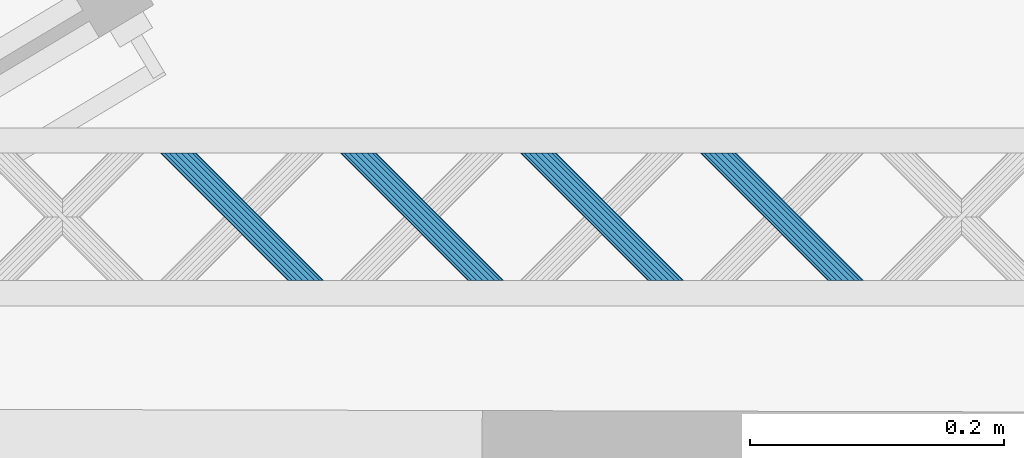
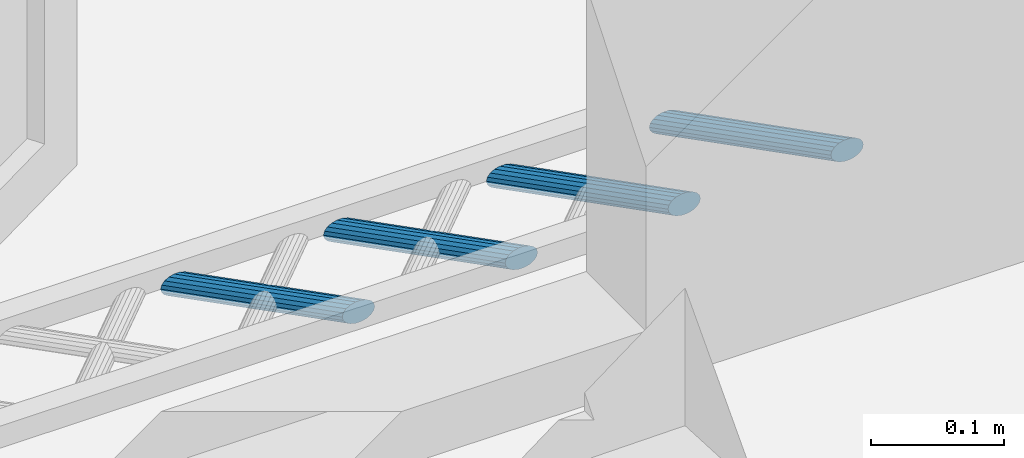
# One storey, part 69 of 133: 4 members, 1 element without a shape of its own.
"""IFC2X3 building model written with IfcOpenShell, lengths in centimetres."""

from ifc_helpers import new_model, entity, si_unit, converted_unit, direction, frame, origin, origin_with_axes, place, context, subcontext, project, spatial, faceted_brep, material, type_object, element, aggregate, save


model = new_model("IFC2X3")

# Units and contexts
model_context = context("Model", 3, precision=0.0001, world=origin(), true_north=direction((0.225632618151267, 0.974212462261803, 0.0)))
body_context = subcontext(model_context, "Body", "Model", "MODEL_VIEW")
ifc_project = project(units=[si_unit("LENGTHUNIT", "METRE", prefix="CENTI"), si_unit("AREAUNIT", "SQUARE_METRE", prefix="CENTI"), si_unit("VOLUMEUNIT", "CUBIC_METRE", prefix="CENTI"), converted_unit("PLANEANGLEUNIT", "DEGREE", entity("IfcRatioMeasure", 0.0174532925), si_unit("PLANEANGLEUNIT", "RADIAN"), dimensions=[0, 0, 0, 0, 0, 0, 0])], contexts=[model_context])

# Site, building, storey
site_placement = place(None, origin_with_axes())
site = spatial("IfcSite", under=ifc_project, at=site_placement, Name="Default Site", CompositionType="ELEMENT")
building_placement = place(site_placement, origin_with_axes())
building = spatial("IfcBuilding", under=site, at=building_placement, Name="Default Building", CompositionType="ELEMENT")
storey_placement = place(building_placement, frame((0.0, 0.0, -291.400371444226), z_axis=(0.0, 0.0, 1.0), x_axis=(1.0, 0.0, 0.0)))
storey = spatial("IfcBuildingStorey", under=building, at=storey_placement, Name="Rez-de-Jardin", CompositionType="ELEMENT", Elevation=-291.400371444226)

# Assembly, members
building_element_proxy_type = type_object("IfcBuildingElementProxyType", Name="Type Object", PredefinedType="NOTDEFINED")
assembly_placement = place(storey_placement, frame((-322.682568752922, 627.125798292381, 0.0), z_axis=(0.0, 1.0, -2.38697950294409e-15), x_axis=(1.0, 0.0, 0.0)))
assembly = element("IfcElementAssembly", 1, at=assembly_placement, inside=storey, type_object=building_element_proxy_type, Name="Panneau 92029", ObjectType="Precast panel", PredefinedType="USERDEFINED")
ifc_material = material(Name="Aluminium satiné")
member_1_placement = place(assembly_placement, frame((205.452823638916, 0.342020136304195, 1.99999995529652), z_axis=(1.16937209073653e-15, 1.43220862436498e-15, -1.0), x_axis=(-0.632448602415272, -0.774602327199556, -1.84895987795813e-15)))
member_1 = element("IfcMember", 2, at=member_1_placement, material=ifc_material, Name="4294966810", context=body_context, shape_type="Brep", body=[
    faceted_brep([(-4.44089209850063e-14, 6.66133814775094e-14, 1.50573997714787e-13), (-0.388286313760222, 6.66133814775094e-14, 1.5129192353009e-13), (-0.79916457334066, -0.150256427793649, 1.52051620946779e-13), (-1.18306811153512, -0.432635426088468, 1.52761443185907e-13), (-1.49369035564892, -0.813075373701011, 1.53335771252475e-13), (-1.69357569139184, -1.24570186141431, 1.53705351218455e-13), (-1.75861293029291, -1.67833114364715, 1.53825602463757e-13), (-1.68094886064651, -2.05877109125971, 1.53682004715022e-13), (-1.46995595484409, -2.34114113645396, 1.53291887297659e-13), (-1.15108967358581, -2.49139140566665, 1.52702316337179e-13), (-0.762803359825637, -2.49139140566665, 1.51984390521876e-13), (-0.351925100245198, -2.34113497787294, 1.51224693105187e-13), (0.0319784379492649, -2.05875597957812, 1.50514870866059e-13), (0.342600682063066, -1.67831603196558, 1.49940542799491e-13), (0.542486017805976, -1.24568954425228, 1.4957096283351e-13), (0.607523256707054, -0.813060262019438, 1.49450711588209e-13), (0.529859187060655, -0.432620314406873, 1.49594309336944e-13), (0.318866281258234, -0.150250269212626, 1.49984426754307e-13), (6.64336135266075, 7.59578408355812, -9.99999977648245), (6.85434671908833, 7.31340480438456, -9.99999977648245), (6.93201078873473, 6.93296485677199, -9.99999977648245), (6.86697354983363, 6.50033557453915, -9.99999977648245), (6.66708821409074, 6.06770908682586, -9.99999977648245), (6.35645843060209, 5.687259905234, -9.99999977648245), (5.97255489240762, 5.40488090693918, -9.99999977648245), (5.56168417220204, 5.25463371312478, -9.99999977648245), (5.17339031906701, 5.25462447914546, -9.99999977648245), (4.85452403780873, 5.40487474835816, -9.99999977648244), (4.64353113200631, 5.6872447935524, -9.99999977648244), (4.56587460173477, 6.06769397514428, -9.99999977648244), (4.63090430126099, 6.50031402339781, -9.99999977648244), (4.8307896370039, 6.93294051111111, -9.99999977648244), (5.14141942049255, 7.31338969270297, -9.99999977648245), (5.525322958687, 7.59576869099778, -9.99999977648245), (5.93620121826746, 7.7460251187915, -9.99999977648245), (6.32448753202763, 7.7460251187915, -9.99999977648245), (0.318866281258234, -0.150250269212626, 1.50227053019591e-13), (0.529857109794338, -0.432621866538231, -2.51604859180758e-06), (6.85434359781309, 7.31340247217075, -10.0000035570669), (6.64335553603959, 7.59577973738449, -10.0000068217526), (0.529859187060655, -0.432620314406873, 1.49880108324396e-13), (0.607521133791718, -0.813060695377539, -1.67831488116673e-06), (6.93200742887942, 6.93296417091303, -10.0000024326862), (6.85434548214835, 7.31340455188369, -10.0000007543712), (0.607523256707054, -0.813060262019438, 1.49533163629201e-13), (0.542487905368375, -1.24568982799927, 9.73995275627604e-07), (6.86697439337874, 6.50033544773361, -9.9999993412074), (6.93200974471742, 6.93296501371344, -10.0000003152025), (0.542486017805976, -1.24568954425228, 1.49880108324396e-13), (0.342600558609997, -1.67831597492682, -3.389521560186e-08), (6.66708753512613, 6.06770940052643, -9.99999996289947), (6.8669729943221, 6.50033583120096, -9.9999999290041), (0.342600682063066, -1.67831603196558, 1.50227053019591e-13), (0.03197843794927, -2.05875597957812, 1.50920942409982e-13), (6.35645843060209, 5.687259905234, -9.99999977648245), (0.0319784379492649, -2.05875597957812, 1.50920942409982e-13), (-0.351925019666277, -2.34113508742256, -3.38952172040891e-08), (5.97255367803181, 5.404882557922, -9.9999992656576), (6.35645713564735, 5.68726166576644, -9.99999923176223), (-0.351925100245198, -2.34113497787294, 1.51267887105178e-13), (-0.762804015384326, -2.49138961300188, 9.73995282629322e-07), (5.56168387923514, 5.25463451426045, -9.9999993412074), (5.97255359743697, 5.40488444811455, -9.99999785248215), (-0.762803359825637, -2.49139140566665, 1.52308721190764e-13), (-1.15108967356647, -2.49139357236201, -1.67831487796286e-06), (5.1733903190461, 5.25462682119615, -9.99999796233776), (5.56168417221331, 5.25463245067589, -10.0000007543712), (-1.15108967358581, -2.49139140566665, 1.53002610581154e-13), (-1.46995706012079, -2.34114348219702, -2.51604858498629e-06), (4.85452491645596, 5.40487661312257, -9.99999777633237), (5.17339230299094, 5.25462868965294, -9.99999526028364), (-1.46995595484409, -2.34114113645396, 1.53696499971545e-13), (-1.6809467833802, -2.05876953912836, 2.51604889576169e-06), (4.64353693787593, 5.6872491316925, -9.99999274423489), (4.85452776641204, 5.4048775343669, -9.99999526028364), (-1.68094886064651, -2.05877109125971, 1.53696499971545e-13), (-1.75861080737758, -1.67833071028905, 1.67831518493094e-06), (4.56587548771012, 6.06769415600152, -9.99999907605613), (4.6435355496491, 5.68724569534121, -9.99999628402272), (-1.75861293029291, -1.67833114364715, 1.54390389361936e-13), (-1.69357757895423, -1.24570157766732, -9.73994971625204e-07), (4.63090614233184, 6.50031374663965, -9.99999882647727), (4.56587355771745, 6.06769413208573, -10.0000003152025), (-1.69357569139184, -1.24570186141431, 1.5404344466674e-13), (-1.49369023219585, -0.81307543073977, 3.38955196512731e-08), (4.83079174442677, 6.932939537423, -9.99999919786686), (4.63090628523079, 6.50031310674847, -9.99999923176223), (-1.49369035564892, -0.813075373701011, 1.53696499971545e-13), (-1.18306811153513, -0.432635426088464, 1.53002610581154e-13), (4.83078963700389, 6.93294051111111, -9.99999977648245), (-1.18306811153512, -0.432635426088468, 1.53002610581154e-13), (-0.799164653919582, -0.150256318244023, 3.38955211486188e-08), (5.52532324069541, 7.59576830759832, -9.99999989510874), (5.14141978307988, 7.31338919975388, -9.9999999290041), (-0.79916457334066, -0.150256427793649, 1.52655665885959e-13), (-0.388285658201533, -1.79266470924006e-06, -9.73994978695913e-07), (5.93620223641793, 7.74602233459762, -10.0000012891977), (5.52532332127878, 7.59576769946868, -10.0000003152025), (-0.388286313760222, 6.66133814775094e-14, 1.51614831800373e-13), (-1.93891806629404e-11, 2.16669542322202e-06, 1.67831518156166e-06), (6.32448753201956, 7.74602602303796, -9.99999907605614), (5.93620121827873, 7.74602385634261, -10.0000007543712), (0.318867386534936, -0.150247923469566, 2.51604888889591e-06), (6.64335936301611, 7.59577986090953, -10.0000043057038), (6.32448697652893, 7.74602393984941, -10.0000010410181)], [[[0, 1, 2, 3, 4, 5, 6, 7, 8, 9, 10, 11, 12, 13, 14, 15, 16, 17]], [[18, 19, 20, 21, 22, 23, 24, 25, 26, 27, 28, 29, 30, 31, 32, 33, 34, 35]], [[36, 37, 38, 39]], [[40, 41, 42, 43]], [[44, 45, 46, 47]], [[48, 49, 50, 51]], [[52, 53, 54, 22]], [[55, 56, 57, 58]], [[59, 60, 61, 62]], [[63, 64, 65, 66]], [[67, 68, 69, 70]], [[71, 72, 73, 74]], [[75, 76, 77, 78]], [[79, 80, 81, 82]], [[83, 84, 85, 86]], [[87, 88, 32, 89]], [[90, 91, 92, 93]], [[94, 95, 96, 97]], [[98, 99, 100, 101]], [[0, 102, 103, 104]]]),
])
member_2_placement = place(assembly_placement, frame((191.310679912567, 0.342020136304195, 1.99999995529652), z_axis=(1.16938344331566e-15, 1.43215300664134e-15, -1.0), x_axis=(-0.632467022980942, -0.774587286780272, -1.84892397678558e-15)))
member_2 = element("IfcMember", 3, at=member_2_placement, material=ifc_material, Name="4294966809", context=body_context, shape_type="Brep", body=[
    faceted_brep([(-4.44089209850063e-14, 4.44089209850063e-14, 1.35655375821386e-13), (-0.388293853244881, 4.44089209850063e-14, 1.36373301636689e-13), (-0.799168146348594, -0.150237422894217, 1.37132976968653e-13), (-1.18307839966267, -0.432607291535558, 1.3784279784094e-13), (-1.49371723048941, -0.813049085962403, 1.38417145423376e-13), (-1.69361285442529, -1.24567082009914, 1.38786737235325e-13), (-1.75866038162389, -1.67829855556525, 1.38907005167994e-13), (-1.68100535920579, -2.05874034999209, 1.38763426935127e-13), (-1.47002670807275, -2.34112464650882, 1.38373343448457e-13), (-1.15115646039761, -2.49137326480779, 1.37783776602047e-13), (-0.762870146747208, -2.49138249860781, 1.37065864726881e-13), (-0.351988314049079, -2.34113584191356, 1.3630617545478e-13), (0.0319219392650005, -2.05876597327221, 1.35596354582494e-13), (0.342560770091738, -1.67832417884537, 1.35022007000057e-13), (0.542456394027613, -1.24570244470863, 1.34652415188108e-13), (0.6074963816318, -0.813083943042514, 1.34532161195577e-13), (0.529848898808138, -0.432632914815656, 1.34675725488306e-13), (0.318862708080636, -0.150257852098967, 1.35065822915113e-13), (6.64353444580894, 7.59561686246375, -9.99999977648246), (6.85451309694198, 7.31323256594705, -9.99999977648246), (6.93216811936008, 6.9327907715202, -9.99999977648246), (6.86712059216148, 6.50016303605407, -9.99999977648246), (6.66722496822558, 6.06754130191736, -9.99999977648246), (6.35659367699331, 5.68710874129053, -9.99999977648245), (5.97268342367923, 5.40473887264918, -9.99999977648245), (5.56180159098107, 5.25449221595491, -9.99999977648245), (5.17351527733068, 5.25450144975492, -9.99999977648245), (4.85464502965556, 5.40475006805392, -9.99999977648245), (4.64366637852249, 5.68713436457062, -9.99999977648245), (4.56601135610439, 6.06757615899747, -9.99999977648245), (4.63105888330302, 6.5002038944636, -9.99999977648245), (4.83095450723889, 6.93282562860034, -9.99999977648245), (5.14158579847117, 7.31325818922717, -9.99999977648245), (5.52549605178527, 7.59562805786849, -9.99999977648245), (5.9363778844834, 7.74587471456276, -9.99999977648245), (6.3246641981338, 7.74586548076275, -9.99999977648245), (0.318862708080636, -0.150257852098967, 1.35308431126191e-13), (0.529846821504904, -0.432634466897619, -2.5160486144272e-06), (6.85451474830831, 7.31323379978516, -9.9999977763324), (6.64353340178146, 7.59561608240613, -10.0000010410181), (0.529848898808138, -0.432632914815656, 1.34961486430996e-13), (0.607499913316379, -0.813083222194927, 2.79203354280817e-06), (6.93217041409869, 6.93279123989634, -9.99999796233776), (6.85451751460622, 7.3132334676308, -9.99999628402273), (0.6074963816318, -0.813083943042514, 1.346145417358e-13), (0.542453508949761, -1.24570201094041, -1.48872511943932e-06), (6.86712143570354, 6.50016290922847, -9.99999934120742), (6.93216707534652, 6.93279092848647, -10.0000003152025), (0.542456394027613, -1.24570244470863, 1.346145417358e-13), (0.342560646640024, -1.67832412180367, -3.3895231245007e-08), (6.66722682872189, 6.06754044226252, -9.9999992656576), (6.86712257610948, 6.50016211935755, -9.99999923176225), (0.342560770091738, -1.67832417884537, 1.34961486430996e-13), (0.0319219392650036, -2.05876597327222, 1.35655375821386e-13), (6.35659367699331, 5.68710874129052, -9.99999977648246), (6.66722496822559, 6.06754130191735, -9.99999977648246), (0.0319219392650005, -2.05876597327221, 1.35655375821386e-13), (-0.351988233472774, -2.34113595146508, -3.38952270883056e-08), (5.97268386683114, 5.40473827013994, -9.99999996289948), (6.35659403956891, 5.68710824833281, -9.99999992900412), (-0.351988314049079, -2.34113584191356, 1.36349265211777e-13), (-0.762870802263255, -2.49138070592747, 9.73995251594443e-07), (5.56180129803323, 5.25449301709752, -9.99999934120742), (5.97268378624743, 5.40473788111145, -10.0000003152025), (-0.762870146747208, -2.49138249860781, 1.37043154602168e-13), (-1.15115646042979, -2.49137543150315, -1.67831489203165e-06), (5.17351527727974, 5.25449802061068, -10.0000024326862), (5.56180159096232, 5.25449095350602, -10.0000007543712), (-1.15115646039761, -2.49137326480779, 1.38083988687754e-13), (-1.47002527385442, -2.34112160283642, 3.26468587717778e-06), (4.85464590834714, 5.40475193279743, -9.99999777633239), (5.17351472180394, 5.25450027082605, -10.0000010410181), (-1.47002670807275, -2.34112464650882, 1.38430933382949e-13), (-1.6810080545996, -2.05874236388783, -3.26468559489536e-06), (4.64366263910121, 5.68713157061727, -10.0000043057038), (4.85464398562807, 5.4047492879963, -10.0000010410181), (-1.68100535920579, -2.05874034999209, 1.38777878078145e-13), (-1.75865825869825, -1.67829812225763, 1.67831516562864e-06), (4.56601224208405, 6.06757633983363, -9.99999907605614), (4.64366514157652, 5.68713411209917, -10.0000007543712), (-1.75866038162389, -1.67829855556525, 1.3912482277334e-13), (-1.69361474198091, -1.24567053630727, -9.73994974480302e-07), (4.63105595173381, 6.50020433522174, -10.0000012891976), (4.56601031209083, 6.06757631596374, -10.0000003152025), (-1.69361285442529, -1.24567082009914, 1.3912482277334e-13), (-1.4937171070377, -0.813049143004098, 3.38955045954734e-08), (4.83095407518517, 6.93282582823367, -9.99999989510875), (4.63105832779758, 6.50020415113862, -9.99999992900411), (-1.49371723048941, -0.813049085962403, 1.38430933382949e-13), (-1.18307839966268, -0.432607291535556, 1.37737043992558e-13), (5.14158579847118, 7.31325818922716, -9.99999977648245), (4.8309545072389, 6.93282562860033, -9.99999977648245), (-1.18307839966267, -0.432607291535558, 1.37737043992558e-13), (-0.799168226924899, -0.150237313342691, 3.38955008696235e-08), (5.5254946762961, 7.59562992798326, -9.99999919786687), (5.14158450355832, 7.31325994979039, -9.99999923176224), (-0.799168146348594, -0.150237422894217, 1.37390099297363e-13), (-0.388294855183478, 2.7400635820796e-06, 1.48872539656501e-06), (5.93637724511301, 7.74587646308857, -9.99999882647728), (5.52549475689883, 7.59563159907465, -9.99999785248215), (-0.388293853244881, 4.44089209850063e-14, 1.36696209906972e-13), (-5.35808416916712e-11, -3.60449953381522e-06, -2.79203327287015e-06), (6.32466419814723, 7.74586638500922, -9.99999907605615), (5.93637788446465, 7.74587345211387, -10.0000007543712), (0.318863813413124, -0.150255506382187, 2.51604887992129e-06), (6.64353499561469, 7.59561802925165, -9.99999852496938), (6.32466618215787, 7.74586969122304, -9.99999526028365)], [[[0, 1, 2, 3, 4, 5, 6, 7, 8, 9, 10, 11, 12, 13, 14, 15, 16, 17]], [[18, 19, 20, 21, 22, 23, 24, 25, 26, 27, 28, 29, 30, 31, 32, 33, 34, 35]], [[36, 37, 38, 39]], [[40, 41, 42, 43]], [[44, 45, 46, 47]], [[48, 49, 50, 51]], [[52, 53, 54, 55]], [[56, 57, 58, 59]], [[60, 61, 62, 63]], [[64, 65, 66, 67]], [[68, 69, 70, 71]], [[72, 73, 74, 75]], [[76, 77, 78, 79]], [[80, 81, 82, 83]], [[84, 85, 86, 87]], [[88, 89, 90, 91]], [[92, 93, 94, 95]], [[96, 97, 98, 99]], [[100, 101, 102, 103]], [[0, 104, 105, 106]]]),
])
member_3_placement = place(assembly_placement, frame((177.168548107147, 0.342020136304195, 1.99999995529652), z_axis=(1.16937209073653e-15, 1.43220862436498e-15, -1.0), x_axis=(-0.632448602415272, -0.774602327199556, -1.84895987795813e-15)))
member_3 = element("IfcMember", 4, at=member_3_placement, material=ifc_material, Name="4294966808", context=body_context, shape_type="Brep", body=[
    faceted_brep([(-2.22044604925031e-14, 4.44089209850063e-14, 1.17614251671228e-13), (-0.388286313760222, 4.44089209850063e-14, 1.1833217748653e-13), (-0.79916457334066, -0.150256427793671, 1.1909187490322e-13), (-1.18306811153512, -0.43263542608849, 1.19801697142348e-13), (-1.49369789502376, -0.813084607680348, 1.20376039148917e-13), (-1.69358323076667, -1.24571109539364, 1.20745619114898e-13), (-1.75861293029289, -1.67833114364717, 1.20865856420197e-13), (-1.68095640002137, -2.05878032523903, 1.20722272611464e-13), (-1.46996349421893, -2.3411503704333, 1.20332155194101e-13), (-1.15109721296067, -2.49140063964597, 1.19742584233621e-13), (-0.762803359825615, -2.49139140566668, 1.19024644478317e-13), (-0.351932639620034, -2.34114421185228, 1.18264961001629e-13), (0.0319708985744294, -2.05876521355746, 1.17555138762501e-13), (0.342600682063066, -1.6783160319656, 1.16980796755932e-13), (0.542486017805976, -1.2456895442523, 1.16611216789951e-13), (0.607523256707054, -0.81306026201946, 1.1649096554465e-13), (0.529859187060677, -0.432620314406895, 1.16634563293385e-13), (0.318866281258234, -0.150250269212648, 1.17024680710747e-13), (6.64335381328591, 7.59577484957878, -9.99999977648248), (6.85434671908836, 7.31340480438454, -9.99999977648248), (6.93200324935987, 6.93295562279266, -9.99999977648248), (6.86697354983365, 6.50033557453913, -9.99999977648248), (6.66708821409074, 6.06770908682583, -9.99999977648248), (6.35645843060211, 5.68725990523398, -9.99999977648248), (5.97255489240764, 5.40488090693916, -9.99999977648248), (5.56167663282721, 5.25462447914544, -9.99999977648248), (5.17339031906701, 5.25462447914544, -9.99999977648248), (4.85452403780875, 5.40487474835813, -9.99999977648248), (4.64353113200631, 5.68724479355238, -9.99999977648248), (4.56586706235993, 6.06768474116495, -9.99999977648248), (4.63090430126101, 6.50031402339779, -9.99999977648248), (4.83078963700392, 6.93294051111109, -9.99999977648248), (5.14141942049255, 7.31338969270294, -9.99999977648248), (5.52532295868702, 7.59576869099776, -9.99999977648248), (5.9361936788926, 7.74601588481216, -9.99999977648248), (6.32448753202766, 7.74602511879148, -9.99999977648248), (0.318866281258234, -0.150250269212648, 1.17267306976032e-13), (0.529857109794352, -0.432621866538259, -2.51604863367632e-06), (6.8543435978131, 7.31340247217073, -10.0000035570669), (6.64335276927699, 7.59577406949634, -10.0000010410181), (0.529859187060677, -0.432620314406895, 1.16920362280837e-13), (0.607521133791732, -0.813060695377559, -1.67831490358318e-06), (6.93200554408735, 6.93295609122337, -9.99999796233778), (6.85434548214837, 7.31340455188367, -10.0000007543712), (0.607523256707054, -0.81306026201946, 1.16573417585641e-13), (0.542487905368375, -1.24568982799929, 9.73995242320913e-07), (6.86697439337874, 6.50033544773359, -9.99999934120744), (6.93200697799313, 6.93295506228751, -9.99999785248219), (0.542486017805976, -1.2456895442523, 1.16573417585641e-13), (0.342600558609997, -1.67831597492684, -3.3895248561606e-08), (6.66708753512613, 6.06770940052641, -9.99999996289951), (6.86697299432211, 6.50033583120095, -9.99999992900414), (0.342600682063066, -1.6783160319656, 1.17267306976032e-13), (0.0319708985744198, -2.05876521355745, 1.17614251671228e-13), (6.3564584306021, 5.68725990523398, -9.99999977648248), (0.0319708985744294, -2.05876521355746, 1.17614251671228e-13), (-0.351932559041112, -2.3411443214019, -3.38952501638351e-08), (5.97255533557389, 5.40488030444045, -9.99999996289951), (6.35645879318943, 5.68725941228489, -9.99999992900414), (-0.351932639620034, -2.34114421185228, 1.18308141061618e-13), (-0.762802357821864, -2.49139414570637, -1.48872513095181e-06), (5.5616763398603, 5.25462528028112, -9.99999934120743), (5.97255525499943, 5.40487991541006, -10.0000003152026), (-0.762803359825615, -2.49139140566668, 1.19002030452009e-13), (-1.15109721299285, -2.4913970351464, 2.79203351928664e-06), (5.1733903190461, 5.25462682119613, -9.99999796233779), (5.56167663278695, 5.25462898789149, -9.99999628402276), (-1.15109721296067, -2.49140063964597, 1.20042864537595e-13), (-1.46996459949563, -2.34115271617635, -2.51604861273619e-06), (4.85452237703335, 5.40487122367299, -10.0000035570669), (5.17338976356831, 5.25462330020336, -10.0000010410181), (-1.46996349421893, -2.3411503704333, 1.2038980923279e-13), (-1.68095432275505, -2.05877877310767, 2.51604886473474e-06), (4.64353216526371, 5.6872455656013, -9.99999852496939), (4.85452299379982, 5.40487396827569, -10.0000010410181), (-1.68095640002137, -2.05878032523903, 1.20736753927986e-13), (-1.75861646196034, -1.67833186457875, -2.7920332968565e-06), (4.56586794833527, 6.06768492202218, -9.99999907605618), (4.64352989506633, 5.68724454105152, -10.0000007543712), (-1.75861293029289, -1.67833114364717, 1.21083698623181e-13), (-1.69358034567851, -1.24571152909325, 1.48872537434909e-06), (4.63090614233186, 6.50031374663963, -9.99999882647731), (4.56587079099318, 6.0676841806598, -9.99999785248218), (-1.69358323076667, -1.24571109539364, 1.21083698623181e-13), (-1.49369777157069, -0.813084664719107, 3.38954863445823e-08), (4.83078920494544, 6.93294071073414, -9.99999989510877), (4.63090374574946, 6.50031428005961, -9.99999992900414), (-1.49369789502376, -0.813084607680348, 1.2038980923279e-13), (-1.18306811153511, -0.432635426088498, 1.20042864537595e-13), (5.14141942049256, 7.31338969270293, -9.99999977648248), (-1.18306811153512, -0.43263542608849, 1.20042864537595e-13), (-0.799164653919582, -0.150256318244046, 3.38954878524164e-08), (5.52532324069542, 7.5957683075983, -9.99999989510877), (5.14141978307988, 7.31338919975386, -9.99999992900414), (-0.79916457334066, -0.150256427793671, 1.19348975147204e-13), (-0.388285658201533, -1.7926647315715e-06, -9.7399501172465e-07), (5.93619303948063, 7.74601763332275, -9.99999882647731), (5.5253233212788, 7.59576769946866, -10.0000003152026), (-0.388286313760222, 4.44089209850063e-14, 1.18655085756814e-13), (-1.9366976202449e-11, 2.16669540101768e-06, 1.67831514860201e-06), (6.32448753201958, 7.74602602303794, -9.99999907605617), (5.93619367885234, 7.74602039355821, -9.99999628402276), (0.318867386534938, -0.150247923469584, 2.51604886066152e-06), (6.64335436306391, 7.59577601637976, -9.9999985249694), (6.32448697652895, 7.74602393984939, -10.0000010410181)], [[[0, 1, 2, 3, 4, 5, 6, 7, 8, 9, 10, 11, 12, 13, 14, 15, 16, 17]], [[18, 19, 20, 21, 22, 23, 24, 25, 26, 27, 28, 29, 30, 31, 32, 33, 34, 35]], [[36, 37, 38, 39]], [[40, 41, 42, 43]], [[44, 45, 46, 47]], [[48, 49, 50, 51]], [[52, 53, 54, 22]], [[55, 56, 57, 58]], [[59, 60, 61, 62]], [[63, 64, 65, 66]], [[67, 68, 69, 70]], [[71, 72, 73, 74]], [[75, 76, 77, 78]], [[79, 80, 81, 82]], [[83, 84, 85, 86]], [[87, 88, 89, 31]], [[90, 91, 92, 93]], [[94, 95, 96, 97]], [[98, 99, 100, 101]], [[0, 102, 103, 104]]]),
])
member_4_placement = place(assembly_placement, frame((163.026416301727, 0.342020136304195, 1.99999995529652), z_axis=(1.16937209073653e-15, 1.43220862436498e-15, -1.0), x_axis=(-0.632448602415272, -0.774602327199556, -1.84895987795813e-15)))
member_4 = element("IfcMember", 5, at=member_4_placement, material=ifc_material, Name="4294966807", context=body_context, shape_type="Brep", body=[
    faceted_brep([(-4.44089209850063e-14, 6.66133814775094e-14, 1.89778748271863e-13), (-0.388286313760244, 6.66133814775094e-14, 1.90496674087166e-13), (-0.799164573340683, -0.150256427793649, 1.91256371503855e-13), (-1.18306811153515, -0.432635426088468, 1.91966193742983e-13), (-1.49369035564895, -0.813075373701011, 1.92540521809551e-13), (-1.69358323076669, -1.24571109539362, 1.92910115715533e-13), (-1.75861293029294, -1.67833114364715, 1.93030353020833e-13), (-1.68095640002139, -2.05878032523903, 1.92886769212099e-13), (-1.46996349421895, -2.34115037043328, 1.92496651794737e-13), (-1.15109721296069, -2.49140063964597, 1.91907080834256e-13), (-0.762803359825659, -2.49139140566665, 1.91189141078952e-13), (-0.351932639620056, -2.34114421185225, 1.90429457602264e-13), (0.0319784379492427, -2.05875597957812, 1.89719621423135e-13), (0.342600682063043, -1.67831603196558, 1.89145293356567e-13), (0.542486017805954, -1.24568954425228, 1.88775713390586e-13), (0.607523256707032, -0.813060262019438, 1.88655462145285e-13), (0.529859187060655, -0.432620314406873, 1.8879905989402e-13), (0.31887382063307, -0.150241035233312, 1.89189163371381e-13), (6.64336135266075, 7.59578408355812, -9.99999977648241), (6.85434671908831, 7.31340480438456, -9.99999977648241), (6.93201078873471, 6.93296485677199, -9.99999977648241), (6.86697354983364, 6.50033557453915, -9.99999977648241), (6.66708821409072, 6.06770908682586, -9.99999977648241), (6.35645843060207, 5.687259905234, -9.99999977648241), (5.97255489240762, 5.40488090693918, -9.99999977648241), (5.56168417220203, 5.25463371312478, -9.99999977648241), (5.17339031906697, 5.25462447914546, -9.99999977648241), (4.85452403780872, 5.40487474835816, -9.9999997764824), (4.6435311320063, 5.6872447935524, -9.9999997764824), (4.56587460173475, 6.06769397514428, -9.9999997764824), (4.63090430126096, 6.50031402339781, -9.9999997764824), (4.83078963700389, 6.93294051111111, -9.9999997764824), (5.14141942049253, 7.31338969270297, -9.99999977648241), (5.52532295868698, 7.59576869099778, -9.99999977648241), (5.93620121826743, 7.7460251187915, -9.99999977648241), (6.32448753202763, 7.7460251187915, -9.99999977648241), (0.31887382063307, -0.150241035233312, 1.89431803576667e-13), (0.529861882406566, -0.432618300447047, 3.26468591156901e-06), (6.8543483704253, 7.31340603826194, -9.99999777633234), (6.64336030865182, 7.59578330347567, -10.0000010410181), (0.529859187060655, -0.432620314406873, 1.89084858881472e-13), (0.607521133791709, -0.813060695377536, -1.67831483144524e-06), (6.93200742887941, 6.93296417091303, -10.0000024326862), (6.85434548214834, 7.3134045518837, -10.0000007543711), (0.607523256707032, -0.813060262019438, 1.88737914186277e-13), (0.542487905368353, -1.24568982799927, 9.73995314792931e-07), (6.86697439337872, 6.50033544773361, -9.99999934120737), (6.9320097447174, 6.93296501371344, -10.0000003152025), (0.542486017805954, -1.24568954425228, 1.89084858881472e-13), (0.342600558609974, -1.67831597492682, -3.38951764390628e-08), (6.66708753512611, 6.06770940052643, -9.99999996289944), (6.86697299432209, 6.50033583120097, -9.99999992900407), (0.342600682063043, -1.67831603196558, 1.89431803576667e-13), (0.0319784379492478, -2.05875597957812, 1.90125692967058e-13), (0.0319784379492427, -2.05875597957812, 1.90125692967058e-13), (-0.351934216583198, -2.34114206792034, 6.63346702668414e-07), (5.9725536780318, 5.40488255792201, -9.99999926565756), (6.35645713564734, 5.68726166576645, -9.99999923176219), (-0.351932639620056, -2.34114421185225, 1.90472637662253e-13), (-0.762802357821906, -2.49139414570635, -1.48872506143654e-06), (5.56168553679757, 5.25462998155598, -10.0000018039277), (5.97255525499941, 5.40487991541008, -10.0000003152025), (-0.762803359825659, -2.49139140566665, 1.9151347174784e-13), (-1.15109721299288, -2.49139703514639, 2.79203360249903e-06), (5.17339031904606, 5.25462682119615, -9.99999796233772), (5.5616841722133, 5.25463245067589, -10.0000007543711), (-1.15109721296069, -2.49140063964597, 1.9220736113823e-13), (-1.46996459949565, -2.34115271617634, -2.51604855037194e-06), (4.85452237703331, 5.404871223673, -10.0000035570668), (5.17338976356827, 5.25462330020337, -10.0000010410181), (-1.46996349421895, -2.34115037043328, 1.92901250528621e-13), (-1.68095432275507, -2.05877877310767, 2.51604894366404e-06), (4.64353216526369, 5.68724556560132, -9.99999852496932), (4.85452299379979, 5.40487396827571, -10.0000010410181), (-1.68095640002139, -2.05878032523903, 1.92901250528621e-13), (-1.75861646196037, -1.67833186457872, -2.79203321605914e-06), (4.56586983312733, 6.06769300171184, -10.0000035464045), (4.64352989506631, 5.68724454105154, -10.0000007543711), (-1.75861293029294, -1.67833114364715, 1.93595139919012e-13), (-1.69358034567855, -1.24571152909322, 1.48872543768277e-06), (4.63090614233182, 6.50031374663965, -9.99999882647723), (4.56587355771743, 6.06769413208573, -10.0000003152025), (-1.69358323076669, -1.24571109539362, 1.93248195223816e-13), (-1.49369277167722, -0.813074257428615, -6.63346313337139e-07), (4.83078920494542, 6.93294071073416, -9.9999998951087), (4.63090374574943, 6.50031428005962, -9.99999992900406), (-1.49369035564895, -0.813075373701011, 1.92901250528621e-13), (-1.18306811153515, -0.432635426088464, 1.9220736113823e-13), (4.83078963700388, 6.93294051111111, -9.99999977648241), (-1.18306811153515, -0.432635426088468, 1.9220736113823e-13), (-0.799164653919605, -0.150256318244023, 3.3895560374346e-08), (5.52532324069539, 7.59576830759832, -9.9999998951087), (5.14141978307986, 7.31338919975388, -9.99999992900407), (-0.799164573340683, -0.150256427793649, 1.91860416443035e-13), (-0.388285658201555, -1.79266470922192e-06, -9.73994939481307e-07), (5.93620223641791, 7.74602233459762, -10.0000012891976), (5.52532332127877, 7.59576769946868, -10.0000003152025), (-0.388286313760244, 6.66133814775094e-14, 1.90819582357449e-13), (-1.93891806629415e-11, 2.16669542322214e-06, 1.67831522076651e-06), (6.32448753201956, 7.74602602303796, -9.9999990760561), (5.93620121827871, 7.74602385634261, -10.0000007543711), (0.318872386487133, -0.15024407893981, -3.26468554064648e-06), (6.64335936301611, 7.59577986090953, -10.0000043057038), (6.32448697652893, 7.74602393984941, -10.0000010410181)], [[[0, 1, 2, 3, 4, 5, 6, 7, 8, 9, 10, 11, 12, 13, 14, 15, 16, 17]], [[18, 19, 20, 21, 22, 23, 24, 25, 26, 27, 28, 29, 30, 31, 32, 33, 34, 35]], [[36, 37, 38, 39]], [[40, 41, 42, 43]], [[44, 45, 46, 47]], [[48, 49, 50, 51]], [[52, 53, 23, 22]], [[54, 55, 56, 57]], [[58, 59, 60, 61]], [[62, 63, 64, 65]], [[66, 67, 68, 69]], [[70, 71, 72, 73]], [[74, 75, 76, 77]], [[78, 79, 80, 81]], [[82, 83, 84, 85]], [[86, 87, 32, 88]], [[89, 90, 91, 92]], [[93, 94, 95, 96]], [[97, 98, 99, 100]], [[0, 101, 102, 103]]]),
])
aggregate(assembly, [member_1, member_2, member_3, member_4])

save(model, "model.ifc")
